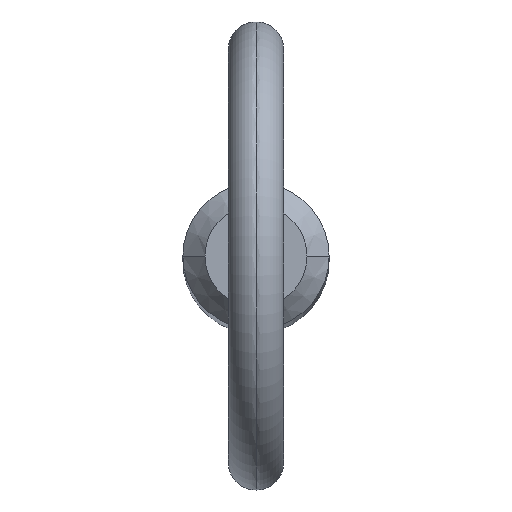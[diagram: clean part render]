
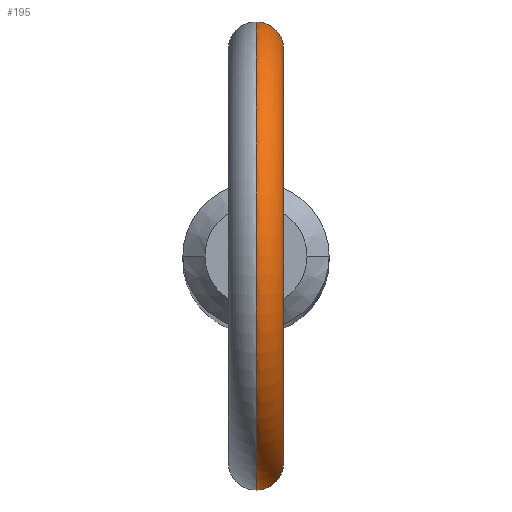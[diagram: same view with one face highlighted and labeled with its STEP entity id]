
A CAD part, top view. The second image highlights one B-rep face of the part: STEP entity #195.
In plain terms, the highlighted toroidal (fillet/blend) face has major radius 11.2 mm and minor radius 1.5 mm.
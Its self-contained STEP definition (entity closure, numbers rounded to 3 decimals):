
#3 = DIRECTION ( 'NONE',  ( 1., 0., 0. ) ) ;
#14 = CARTESIAN_POINT ( 'NONE',  ( 0., -3.965, 127.635 ) ) ;
#17 = CARTESIAN_POINT ( 'NONE',  ( 1.471, -3.682, 128.794 ) ) ;
#32 = DIRECTION ( 'NONE',  ( 0., 0., -1. ) ) ;
#34 = CARTESIAN_POINT ( 'NONE',  ( 0., 3.965, 127.635 ) ) ;
#36 = B_SPLINE_CURVE_WITH_KNOTS ( 'NONE', 3,
 ( #452, #328, #456, #370, #173, #90, #211, #373, #257, #129, #451, #327, #91, #55, #134, #17, #131, #411, #217, #412, #210, #174, #212, #49, #490, #14 ),
 .UNSPECIFIED., .F., .F.,
 ( 4, 2, 2, 2, 2, 2, 2, 2, 2, 2, 2, 2, 4 ),
 ( 0.004, 0.005, 0.005, 0.005, 0.006, 0.006, 0.007, 0.007, 0.007, 0.008, 0.008, 0.008, 0.009 ),
 .UNSPECIFIED. ) ;
#41 = CARTESIAN_POINT ( 'NONE',  ( 1.344, 3.731, 128.403 ) ) ;
#45 = CIRCLE ( 'NONE', #335, 12.7 ) ;
#49 = CARTESIAN_POINT ( 'NONE',  ( 0.409, -3.948, 127.674 ) ) ;
#50 = CARTESIAN_POINT ( 'NONE',  ( 0.927, 3.858, 130.467 ) ) ;
#54 = VERTEX_POINT ( 'NONE', #240 ) ;
#55 = CARTESIAN_POINT ( 'NONE',  ( 1.503, -3.669, 129.099 ) ) ;
#56 = AXIS2_PLACEMENT_3D ( 'NONE', #223, #85, #400 ) ;
#62 = CARTESIAN_POINT ( 'NONE',  ( 0., 3.965, 130.847 ) ) ;
#79 = CARTESIAN_POINT ( 'NONE',  ( 1.447, 3.692, 128.693 ) ) ;
#82 = CARTESIAN_POINT ( 'NONE',  ( 0., -3.965, 127.635 ) ) ;
#85 = DIRECTION ( 'NONE',  ( 1., 0., 0. ) ) ;
#90 = CARTESIAN_POINT ( 'NONE',  ( 0.77, -3.894, 130.6 ) ) ;
#91 = CARTESIAN_POINT ( 'NONE',  ( 1.493, -3.673, 129.304 ) ) ;
#93 = CARTESIAN_POINT ( 'NONE',  ( 0.411, 3.948, 130.791 ) ) ;
#105 = EDGE_CURVE ( 'NONE', #251, #54, #227, .T. ) ;
#118 = CARTESIAN_POINT ( 'NONE',  ( 1.47, 3.682, 128.792 ) ) ;
#129 = CARTESIAN_POINT ( 'NONE',  ( 1.404, -3.708, 129.701 ) ) ;
#131 = CARTESIAN_POINT ( 'NONE',  ( 1.447, -3.692, 128.693 ) ) ;
#134 = CARTESIAN_POINT ( 'NONE',  ( 1.499, -3.671, 128.997 ) ) ;
#154 = CARTESIAN_POINT ( 'NONE',  ( 0., -3.965, 130.847 ) ) ;
#159 = CARTESIAN_POINT ( 'NONE',  ( 0.41, 3.948, 127.674 ) ) ;
#163 = CARTESIAN_POINT ( 'NONE',  ( 0.204, 3.965, 127.635 ) ) ;
#173 = CARTESIAN_POINT ( 'NONE',  ( 0.498, -3.935, 130.744 ) ) ;
#174 = CARTESIAN_POINT ( 'NONE',  ( 0.782, -3.888, 127.837 ) ) ;
#193 = DIRECTION ( 'NONE',  ( 0., 0., -1. ) ) ;
#195 = ADVANCED_FACE ( 'NONE', ( #387 ), #491, .T. ) ;
#196 = CARTESIAN_POINT ( 'NONE',  ( 0.782, 3.888, 127.837 ) ) ;
#200 = CARTESIAN_POINT ( 'NONE',  ( 1.488, 3.675, 129.405 ) ) ;
#210 = CARTESIAN_POINT ( 'NONE',  ( 0.949, -3.851, 127.949 ) ) ;
#211 = CARTESIAN_POINT ( 'NONE',  ( 0.925, -3.858, 130.468 ) ) ;
#212 = CARTESIAN_POINT ( 'NONE',  ( 0.693, -3.905, 127.79 ) ) ;
#214 = CARTESIAN_POINT ( 'NONE',  ( 0.206, 3.965, 130.847 ) ) ;
#217 = CARTESIAN_POINT ( 'NONE',  ( 1.237, -3.77, 128.231 ) ) ;
#223 = CARTESIAN_POINT ( 'NONE',  ( 0., 0., 139.7 ) ) ;
#227 = B_SPLINE_CURVE_WITH_KNOTS ( 'NONE', 3,
 ( #436, #163, #159, #438, #196, #443, #242, #277, #41, #79, #118, #397, #439, #200, #481, #282, #447, #50, #330, #93, #214, #62 ),
 .UNSPECIFIED., .F., .F.,
 ( 4, 2, 2, 2, 2, 2, 2, 2, 2, 2, 4 ),
 ( 0.001, 0.001, 0.002, 0.002, 0.003, 0.003, 0.003, 0.004, 0.004, 0.005, 0.006 ),
 .UNSPECIFIED. ) ;
#240 = CARTESIAN_POINT ( 'NONE',  ( 0., 3.965, 130.847 ) ) ;
#242 = CARTESIAN_POINT ( 'NONE',  ( 1.026, 3.831, 128.013 ) ) ;
#251 = VERTEX_POINT ( 'NONE', #34 ) ;
#257 = CARTESIAN_POINT ( 'NONE',  ( 1.291, -3.75, 129.983 ) ) ;
#260 = EDGE_CURVE ( 'NONE', #54, #272, #454, .T. ) ;
#268 = DIRECTION ( 'NONE',  ( 1., 0., 0. ) ) ;
#272 = VERTEX_POINT ( 'NONE', #154 ) ;
#277 = CARTESIAN_POINT ( 'NONE',  ( 1.236, 3.77, 128.229 ) ) ;
#282 = CARTESIAN_POINT ( 'NONE',  ( 1.291, 3.75, 129.984 ) ) ;
#287 = VERTEX_POINT ( 'NONE', #82 ) ;
#288 = EDGE_CURVE ( 'NONE', #251, #287, #45, .T. ) ;
#301 = CARTESIAN_POINT ( 'NONE',  ( 0., 0., 139.7 ) ) ;
#309 = EDGE_LOOP ( 'NONE', ( #350, #332, #337, #494 ) ) ;
#310 = AXIS2_PLACEMENT_3D ( 'NONE', #301, #268, #32 ) ;
#327 = CARTESIAN_POINT ( 'NONE',  ( 1.479, -3.679, 129.407 ) ) ;
#328 = CARTESIAN_POINT ( 'NONE',  ( 0.102, -3.965, 130.847 ) ) ;
#330 = CARTESIAN_POINT ( 'NONE',  ( 0.769, 3.894, 130.601 ) ) ;
#332 = ORIENTED_EDGE ( 'NONE', *, *, #288, .T. ) ;
#335 = AXIS2_PLACEMENT_3D ( 'NONE', #437, #3, #193 ) ;
#337 = ORIENTED_EDGE ( 'NONE', *, *, #506, .F. ) ;
#350 = ORIENTED_EDGE ( 'NONE', *, *, #105, .F. ) ;
#370 = CARTESIAN_POINT ( 'NONE',  ( 0.404, -3.946, 130.782 ) ) ;
#373 = CARTESIAN_POINT ( 'NONE',  ( 1.186, -3.786, 130.159 ) ) ;
#387 = FACE_OUTER_BOUND ( 'NONE', #309, .T. ) ;
#397 = CARTESIAN_POINT ( 'NONE',  ( 1.499, 3.671, 128.994 ) ) ;
#400 = DIRECTION ( 'NONE',  ( 0., 0., -1. ) ) ;
#411 = CARTESIAN_POINT ( 'NONE',  ( 1.346, -3.73, 128.408 ) ) ;
#412 = CARTESIAN_POINT ( 'NONE',  ( 1.028, -3.83, 128.015 ) ) ;
#436 = CARTESIAN_POINT ( 'NONE',  ( 0., 3.965, 127.635 ) ) ;
#437 = CARTESIAN_POINT ( 'NONE',  ( 0., 0., 139.7 ) ) ;
#438 = CARTESIAN_POINT ( 'NONE',  ( 0.691, 3.905, 127.789 ) ) ;
#439 = CARTESIAN_POINT ( 'NONE',  ( 1.503, 3.669, 129.098 ) ) ;
#443 = CARTESIAN_POINT ( 'NONE',  ( 0.949, 3.851, 127.949 ) ) ;
#447 = CARTESIAN_POINT ( 'NONE',  ( 1.185, 3.786, 130.16 ) ) ;
#451 = CARTESIAN_POINT ( 'NONE',  ( 1.434, -3.697, 129.605 ) ) ;
#452 = CARTESIAN_POINT ( 'NONE',  ( 0., -3.965, 130.847 ) ) ;
#454 = CIRCLE ( 'NONE', #310, 9.7 ) ;
#456 = CARTESIAN_POINT ( 'NONE',  ( 0.205, -3.961, 130.834 ) ) ;
#481 = CARTESIAN_POINT ( 'NONE',  ( 1.441, 3.695, 129.608 ) ) ;
#490 = CARTESIAN_POINT ( 'NONE',  ( 0.205, -3.965, 127.635 ) ) ;
#491 = TOROIDAL_SURFACE ( 'NONE', #56, 11.2, 1.5 ) ;
#494 = ORIENTED_EDGE ( 'NONE', *, *, #260, .F. ) ;
#506 = EDGE_CURVE ( 'NONE', #272, #287, #36, .T. ) ;
